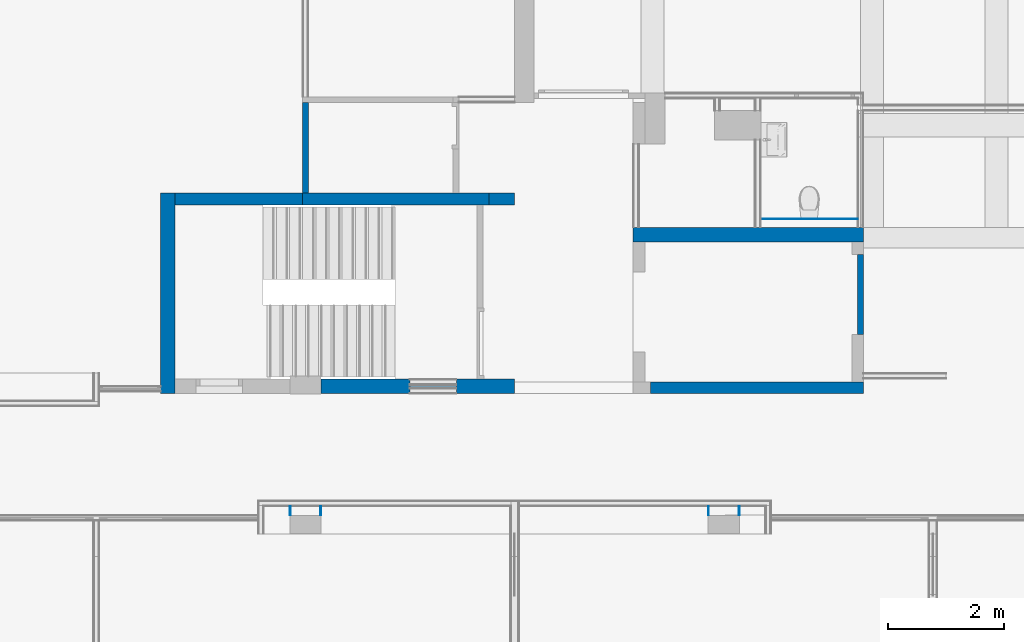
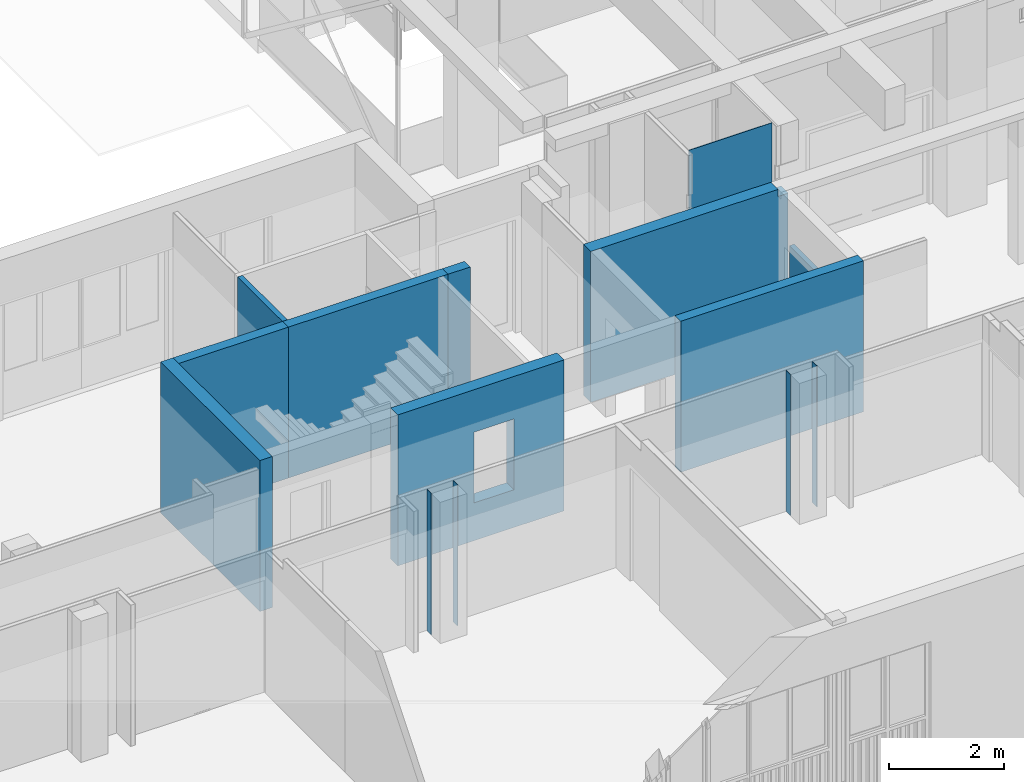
# One storey, part 53 of 117: 14 walls, 1 opening.
"""IFC2X3 building model written with IfcOpenShell, lengths in millimetres."""

from ifc_helpers import new_model, entity, si_unit, converted_unit, derived_unit, money_unit, direction, frame, origin_with_axes, place, context, subcontext, project, spatial, faceted_brep, material, type_object, element, save


model = new_model("IFC2X3")

# Units and contexts
model_context = context("Model", 3, precision=0.01, world=origin_with_axes(), true_north=direction((0.0, 1.0)))
body_context = subcontext(model_context, "Body", "Model", "MODEL_VIEW")
ifc_project = project(units=[si_unit("LENGTHUNIT", "METRE", prefix="MILLI"), si_unit("AREAUNIT", "SQUARE_METRE"), si_unit("VOLUMEUNIT", "CUBIC_METRE"), converted_unit("PLANEANGLEUNIT", "DEGREE", entity("IfcPlaneAngleMeasure", 0.0174532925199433), si_unit("PLANEANGLEUNIT", "RADIAN"), dimensions=[0, 0, 0, 0, 0, 0, 0]), money_unit("EUR"), converted_unit("TIMEUNIT", "Year", entity("IfcTimeMeasure", 31557600.0), si_unit("TIMEUNIT", "SECOND"), dimensions=[0, 0, 1, 0, 0, 0, 0]), si_unit("MASSUNIT", "GRAM", prefix="KILO"), si_unit("THERMODYNAMICTEMPERATUREUNIT", "DEGREE_CELSIUS"), si_unit("LUMINOUSINTENSITYUNIT", "LUMEN"), si_unit("ENERGYUNIT", "JOULE", prefix="MEGA"), derived_unit("THERMALCONDUCTANCEUNIT", [(si_unit("POWERUNIT", "WATT"), 1), (si_unit("LENGTHUNIT", "METRE"), -1), (si_unit("THERMODYNAMICTEMPERATUREUNIT", "KELVIN"), -1)]), derived_unit("SPECIFICHEATCAPACITYUNIT", [(si_unit("ENERGYUNIT", "JOULE"), 1), (si_unit("MASSUNIT", "GRAM", prefix="KILO"), -1), (si_unit("THERMODYNAMICTEMPERATUREUNIT", "KELVIN"), -1)]), derived_unit("MASSDENSITYUNIT", [(si_unit("MASSUNIT", "GRAM", prefix="KILO"), 1), (si_unit("VOLUMEUNIT", "CUBIC_METRE"), -1)])], contexts=[model_context])

# Site, building, storey
site_placement = place(None, origin_with_axes())
site = spatial("IfcSite", under=ifc_project, at=site_placement, Name="Site", CompositionType="ELEMENT")
building_placement = place(site_placement, origin_with_axes())
building = spatial("IfcBuilding", under=site, at=building_placement, Name="Naam gebouw", CompositionType="ELEMENT")
storey_placement = place(building_placement, frame((0.0, 0.0, 4150.0), z_axis=(0.0, 0.0, 1.0), x_axis=(1.0, 0.0, 0.0)))
storey = spatial("IfcBuildingStorey", under=building, at=storey_placement, Name="1e verdieping N", CompositionType="ELEMENT", Elevation=4150.0)

# Walls
ifc_material_1 = material(Name="ALG - CONSTRUCTIEF")
wall_type_1 = type_object("IfcWallType", Name="ALG - CONSTRUCTIEF 100", PredefinedType="NOTDEFINED")
wall_1_placement = place(storey_placement, frame((14400.0, 17806.42315075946, -99.99999999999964), z_axis=(0.0, 0.0, 1.0), x_axis=(0.0, -1.0, 0.0)))
element("IfcWall", 1, at=wall_1_placement, inside=storey, type_object=wall_type_1, material=ifc_material_1, Name="_Wand-x", context=body_context, shape_type="Brep", body=[
    faceted_brep([(1610.502890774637, 50.00000000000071, 3300.0), (1610.502890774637, 49.99999999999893, 99.99999999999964), (50.00000000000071, 50.00000000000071, 99.99999999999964), (50.00000000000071, 50.00000000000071, 3300.0), (1610.502890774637, -50.00000000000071, 3300.0), (1610.502890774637, -50.00000000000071, 99.99999999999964), (50.00000000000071, -50.00000000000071, 99.99999999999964), (50.00000000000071, -49.99999999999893, 3300.0)], [[[0, 1, 2, 3]], [[4, 5, 1, 0]], [[5, 6, 2, 1]], [[3, 2, 6, 7]], [[4, 0, 3, 7]], [[7, 6, 5, 4]]]),
])
wall_type_2 = type_object("IfcWallType", Name="ALG - CONSTRUCTIEF 200", PredefinedType="NOTDEFINED")
wall_2_placement = place(storey_placement, frame((18000.0, 15995.92025998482, -99.99999999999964), z_axis=(0.0, 0.0, 1.0), x_axis=(-1.0, 0.0, 0.0)))
element("IfcWall", 2, at=wall_2_placement, inside=storey, type_object=wall_type_2, material=ifc_material_1, Name="_Wand-x", context=body_context, shape_type="Brep", body=[
    faceted_brep([(0.0, 0.0, 3300.0), (0.0, 0.0, 99.99999999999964), (0.0, -200.0000000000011, 99.99999999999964), (0.0, -200.0000000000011, 3300.0), (444.4994815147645, 0.0, 3300.0), (444.4994815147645, 0.0, 99.99999999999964), (444.4994815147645, -200.0000000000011, 99.99999999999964), (444.4994815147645, -200.0000000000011, 3300.0)], [[[0, 1, 2, 3]], [[4, 5, 1, 0]], [[5, 6, 2, 1]], [[3, 2, 6, 7]], [[4, 0, 3, 7]], [[7, 6, 5, 4]]]),
])
wall_3_placement = place(storey_placement, frame((23802.99999999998, 12744.60803964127, -99.99999999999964), z_axis=(0.0, 0.0, 1.0), x_axis=(-1.0, 0.0, 0.0)))
element("IfcWall", 3, at=wall_3_placement, inside=storey, type_object=wall_type_2, material=ifc_material_1, Name="_Wand-x", context=body_context, shape_type="Brep", body=[
    faceted_brep([(-199.9999999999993, 0.0, 3300.0), (-199.9999999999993, 0.0, 99.99999999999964), (-199.9999999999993, -200.0000000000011, 99.99999999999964), (-199.9999999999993, -200.0000000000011, 3300.0), (3462.0, 0.0, 3300.0), (3462.0, 0.0, 99.99999999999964), (3462.0, -200.0000000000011, 99.99999999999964), (3462.0, -200.0000000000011, 3300.0)], [[[0, 1, 2, 3]], [[4, 5, 1, 0]], [[5, 6, 2, 1]], [[3, 2, 6, 7]], [[4, 0, 3, 7]], [[7, 6, 5, 4]]]),
])
wall_4_placement = place(storey_placement, frame((14350.0, 15995.92025998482, -99.99999999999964), z_axis=(0.0, 0.0, 1.0), x_axis=(-1.0, 0.0, 0.0)))
element("IfcWall", 4, at=wall_4_placement, inside=storey, type_object=wall_type_2, material=ifc_material_1, Name="_Wand-x", context=body_context, shape_type="Brep", body=[
    faceted_brep([(0.0, 0.0, 3300.0), (0.0, -1.119104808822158e-10, 99.99999999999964), (0.0, -200.0000000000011, 99.99999999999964), (0.0, -200.0000000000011, 3300.0), (2194.499481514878, 0.0, 3300.0), (2194.499481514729, -1.119104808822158e-10, 99.99999999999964), (2194.499481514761, -200.0000000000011, 99.99999999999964), (2194.499481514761, -200.0000000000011, 3300.0)], [[[0, 1, 2, 3]], [[4, 5, 1, 0]], [[5, 6, 2, 1]], [[3, 2, 6, 7]], [[4, 0, 3, 7]], [[7, 6, 5, 4]]]),
])
wall_5_placement = place(storey_placement, frame((17555.50051848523, 15995.92025998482, -99.99999999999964), z_axis=(0.0, 0.0, 1.0), x_axis=(-1.0, 0.0, 0.0)))
element("IfcWall", 5, at=wall_5_placement, inside=storey, type_object=wall_type_2, material=ifc_material_1, Name="_Wand-x", context=body_context, shape_type="Brep", body=[
    faceted_brep([(0.0, 0.0, 99.99999999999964), (1673.099999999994, -1.119104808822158e-10, 99.99999999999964), (3205.500518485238, -1.119104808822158e-10, 99.99999999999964), (3205.500518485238, -200.0000000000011, 99.99999999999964), (0.0, -200.0000000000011, 99.99999999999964), (3205.500518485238, 0.0, 3300.0), (0.0, 0.0, 3300.0), (1672.999999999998, 0.0, 3300.0), (3205.500518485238, -200.0000000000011, 3300.0), (0.0, -200.0000000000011, 3300.0)], [[[0, 1, 2, 3, 4]], [[5, 2, 1, 0, 6, 7]], [[8, 3, 2, 5]], [[4, 3, 8, 9]], [[6, 0, 4, 9]], [[5, 7, 6, 9, 8]]]),
])
wall_type_3 = type_object("IfcWallType", Name="ALG - CONSTRUCTIEF 250", PredefinedType="NOTDEFINED")
wall_6_placement = place(storey_placement, frame((12155.50051848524, 16195.92025998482, -99.99999999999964), z_axis=(0.0, 0.0, 1.0), x_axis=(0.0, -1.0, 0.0)))
element("IfcWall", 6, at=wall_6_placement, inside=storey, type_object=wall_type_3, material=ifc_material_1, Name="_Wand-x", context=body_context, shape_type="Brep", body=[
    faceted_brep([(3451.312220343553, 0.0, 99.99999999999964), (3201.312220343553, 0.0, 99.99999999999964), (199.9999999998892, 0.0, 99.99999999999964), (0.0, 0.0, 99.99999999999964), (0.0, 0.0, 3300.0), (199.999999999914, -1.172395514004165e-10, 3300.0), (3201.312220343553, -1.172395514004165e-10, 3300.0), (3451.312220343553, 0.0, 3300.0), (3451.312220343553, -249.9999999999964, 99.99999999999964), (0.0, -250.0, 99.99999999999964), (0.0, -249.9999999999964, 3300.0), (3451.312220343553, -250.0, 3300.0)], [[[0, 1, 2, 3, 4, 5, 6, 7]], [[8, 9, 3, 2, 1, 0]], [[4, 3, 9, 10]], [[6, 5, 4, 10, 11, 7]], [[11, 8, 0, 7]], [[10, 9, 8, 11]]]),
])
wall_7_placement = place(storey_placement, frame((20040.99999999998, 15481.60803964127, -99.99999999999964), z_axis=(0.0, 0.0, 1.0), x_axis=(1.0, 0.0, 0.0)))
element("IfcWall", 7, at=wall_7_placement, inside=storey, type_object=wall_type_3, material=ifc_material_1, Name="_Wand-x", context=body_context, shape_type="Brep", body=[
    faceted_brep([(0.0, 125.0, 3300.0), (3762.0, 125.0, 3300.0), (3762.0, 125.0, 3149.999999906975), (3962.0, 125.0, 3149.999999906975), (3962.0, 125.0, 99.99999999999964), (0.0, 125.0, 99.99999999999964), (0.0, -125.0, 3300.0), (3762.0, -125.0, 3300.0), (3762.0, -125.0, 3149.999999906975), (3962.0, -125.0, 3149.999999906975), (3962.0, -125.0, 99.99999999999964), (0.0, -125.0, 99.99999999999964)], [[[0, 1, 2, 3, 4, 5]], [[6, 7, 1, 0]], [[8, 2, 1, 7]], [[8, 9, 3, 2]], [[4, 3, 9, 10]], [[10, 11, 5, 4]], [[6, 0, 5, 11]], [[9, 8, 7, 6, 11, 10]]]),
])

# Wall, opening
wall_8_placement = place(storey_placement, frame((18000.0, 12744.60803964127, -99.99999999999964), z_axis=(0.0, 0.0, 1.0), x_axis=(-1.0, 0.0, 0.0)))
wall_8 = element("IfcWall", 8, at=wall_8_placement, inside=storey, type_object=wall_type_3, material=ifc_material_1, Name="_Wand-x", context=body_context, shape_type="Brep", body=[
    faceted_brep([(3330.0, 0.0, 3300.0), (3330.0, 0.0, 99.99999999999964), (0.0, 0.0, 99.99999999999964), (0.0, 0.0, 3300.0), (1803.249201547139, 0.0, 899.9999999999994), (1803.249201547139, 0.0, 2400.0), (1003.249201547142, 0.0, 2400.0), (1003.249201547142, 0.0, 899.9999999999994), (3330.0, -249.9999999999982, 3300.0), (3330.0, -249.9999999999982, 99.99999999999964), (2059.499481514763, -249.9999999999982, 99.99999999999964), (0.0, -249.9999999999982, 99.99999999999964), (0.0, -249.9999999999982, 3300.0), (2059.499481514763, -249.9999999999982, 3300.0), (1803.249201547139, -249.9999999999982, 899.9999999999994), (1803.249201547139, -249.9999999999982, 2400.0), (1003.249201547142, -249.9999999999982, 2400.0), (1003.249201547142, -249.9999999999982, 899.9999999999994)], [[[0, 1, 2, 3], [4, 5, 6, 7]], [[0, 8, 9, 1]], [[9, 10, 11, 2, 1]], [[3, 2, 11, 12]], [[0, 3, 12, 13, 8]], [[14, 15, 5, 4]], [[15, 16, 6, 5]], [[16, 17, 7, 6]], [[17, 14, 4, 7]], [[13, 12, 11, 10, 9, 8], [14, 17, 16, 15]]]),
])
opening_placement = place(wall_8_placement, frame((1403.249201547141, 0.0, 899.9999999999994), z_axis=(0.0, 0.0, 1.0), x_axis=(1.0, 0.0, 0.0)))
element("IfcOpeningElement", 9, at=opening_placement, cuts=wall_8, Name="_Merk-x", context=body_context, shape_type="Brep", body=[
    faceted_brep([(399.9999999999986, 1.000000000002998, 1500.0), (399.9999999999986, 1.000000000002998, 0.0), (-399.9999999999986, 1.000000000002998, 0.0), (-399.9999999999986, 1.000000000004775, 1500.0), (399.9999999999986, -251.0000000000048, 1500.0), (399.9999999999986, -251.0000000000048, 0.0), (-399.9999999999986, -251.0000000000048, 0.0), (-399.9999999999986, -251.000000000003, 1500.0)], [[[0, 1, 2, 3]], [[4, 5, 1, 0]], [[5, 6, 2, 1]], [[6, 7, 3, 2]], [[7, 4, 0, 3]], [[6, 5, 4, 7]]]),
])

# Walls
ifc_material_2 = material(Name="Steen - Betonblok")
wall_type_4 = type_object("IfcWallType", Name="Steen - Betonblok 100", PredefinedType="NOTDEFINED")
wall_9_placement = place(storey_placement, frame((24002.99999999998, 13765.37242633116, 0.0), z_axis=(0.0, 0.0, 1.0), x_axis=(0.0, 1.0, 0.0)))
element("IfcWall", 10, at=wall_9_placement, inside=storey, type_object=wall_type_4, material=ifc_material_2, Name="_Wand-x", context=body_context, shape_type="Brep", body=[
    faceted_brep([(0.0, 0.0, 2100.0), (1379.999999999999, 0.0, 2100.0), (1379.999999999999, 100.0000000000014, 2100.0), (0.0, 100.0000000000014, 2100.0), (0.0, 0.0, 0.0), (1379.999999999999, 0.0, 0.0), (1379.999999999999, 100.0000000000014, 0.0), (0.0, 100.0000000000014, 0.0)], [[[0, 1, 2, 3]], [[4, 5, 1, 0]], [[2, 1, 5, 6]], [[3, 2, 6, 7]], [[4, 0, 3, 7]], [[7, 6, 5, 4]]]),
])
ifc_material_3 = material(Name="Gipsplaat")
wall_type_5 = type_object("IfcWallType", Name="Metalstud 100 enkel 100", PredefinedType="NOTDEFINED")
wall_10_placement = place(storey_placement, frame((14670.0, 10650.91242510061, 0.0), z_axis=(0.0, 0.0, 1.0), x_axis=(0.0, 1.0, 0.0)))
element("IfcWall", 11, at=wall_10_placement, inside=storey, type_object=wall_type_5, material=ifc_material_3, Name="_Wand-x", context=body_context, shape_type="Brep", body=[
    faceted_brep([(155.0000000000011, 0.0, 0.0), (155.0000000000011, 12.49999999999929, 0.0), (155.0000000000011, 12.50000000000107, 2990.000000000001), (155.0000000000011, 0.0, 2990.000000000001), (0.0, 0.0, 0.0), (0.0, 12.49999999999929, 0.0), (0.0, 12.50000000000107, 2990.000000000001), (0.0, 0.0, 2990.000000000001)], [[[0, 1, 2, 3]], [[4, 5, 1, 0]], [[1, 5, 6, 2]], [[2, 6, 7, 3]], [[4, 0, 3, 7]], [[5, 4, 7, 6]]]),
])
wall_11_placement = place(storey_placement, frame((21870.0, 10650.91242510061, 0.0), z_axis=(0.0, 0.0, 1.0), x_axis=(0.0, 1.0, 0.0)))
element("IfcWall", 12, at=wall_11_placement, inside=storey, type_object=wall_type_5, material=ifc_material_3, Name="_Wand-x", context=body_context, shape_type="Brep", body=[
    faceted_brep([(155.0000000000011, 0.0, 0.0), (155.0000000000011, 12.49999999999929, 0.0), (155.0000000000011, 12.49999999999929, 2990.000000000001), (155.0000000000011, 0.0, 2990.000000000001), (0.0, 0.0, 0.0), (0.0, 12.49999999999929, 0.0), (0.0, 12.49999999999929, 2990.000000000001), (0.0, 0.0, 2990.000000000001)], [[[0, 1, 2, 3]], [[4, 5, 1, 0]], [[1, 5, 6, 2]], [[2, 6, 7, 3]], [[4, 0, 3, 7]], [[5, 4, 7, 6]]]),
])
for number, where, z_axis, x_axis, name in (
    (13, (21330.0, 10650.91242510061, 0.0), (0.0, 0.0, 1.0), (0.0, 1.0, 0.0), "_Wand-x"),
    (14, (14130.0, 10650.91242510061, 0.0), (0.0, 0.0, 1.0), (0.0, 1.0, 0.0), "_Wand-x"),
):
    element("IfcWall", number, at=place(storey_placement, frame(where, z_axis=z_axis, x_axis=x_axis)), inside=storey, type_object=wall_type_5, material=ifc_material_3, Name=name, context=body_context, shape_type="Brep", body=[
        faceted_brep([(155.0000000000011, -12.49999999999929, 0.0), (155.0000000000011, 0.0, 0.0), (155.0000000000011, 0.0, 2990.000000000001), (155.0000000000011, -12.49999999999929, 2990.000000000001), (0.0, -12.49999999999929, 0.0), (0.0, 0.0, 0.0), (0.0, 0.0, 2990.000000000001), (0.0, -12.49999999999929, 2990.000000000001)], [[[0, 1, 2, 3]], [[4, 5, 1, 0]], [[1, 5, 6, 2]], [[2, 6, 7, 3]], [[4, 0, 3, 7]], [[5, 4, 7, 6]]]),
    ])
wall_type_6 = type_object("IfcWallType", Name="Metalstud 150 enkel 150", PredefinedType="NOTDEFINED")
wall_12_placement = place(storey_placement, frame((23902.99999999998, 15756.60803964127, 0.0), z_axis=(0.0, 0.0, 1.0), x_axis=(-1.0, 0.0, 0.0)))
element("IfcWall", 15, at=wall_12_placement, inside=storey, type_object=wall_type_6, material=ifc_material_3, Name="_Wand-x", context=body_context, shape_type="Brep", body=[
    faceted_brep([(0.0, 0.0, 0.0), (0.0, 12.49999999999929, 0.0), (1666.99999999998, 12.49999999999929, 0.0), (1666.99999999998, 0.0, 0.0), (0.0, 0.0, 4340.0), (0.0, 12.50000000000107, 4340.0), (1666.99999999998, 12.49999999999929, 4340.0), (1666.99999999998, 0.0, 4340.0)], [[[0, 1, 2, 3]], [[4, 5, 1, 0]], [[1, 5, 6, 2]], [[7, 3, 2, 6]], [[4, 0, 3, 7]], [[5, 4, 7, 6]]]),
])

save(model, "model.ifc")
